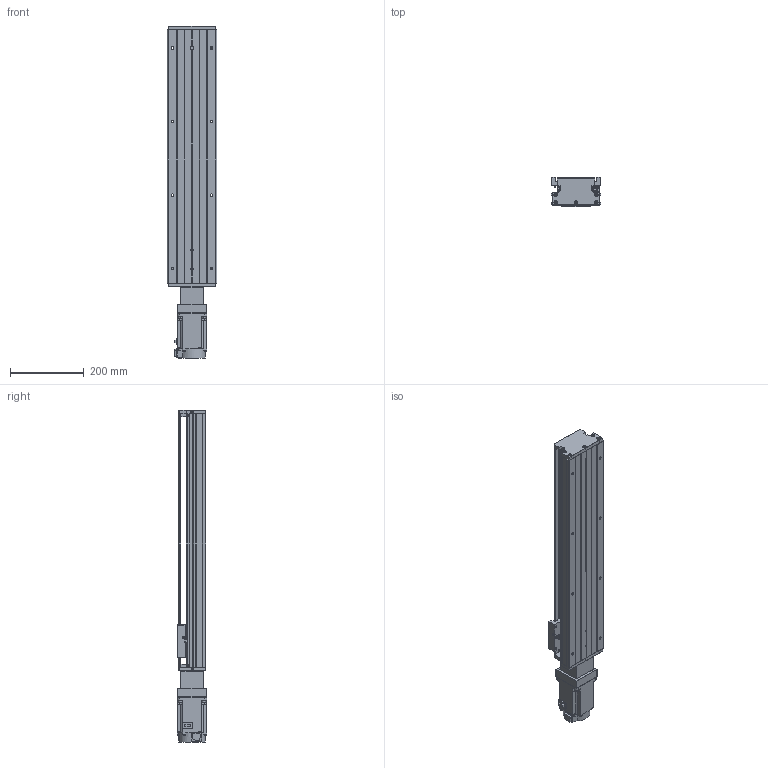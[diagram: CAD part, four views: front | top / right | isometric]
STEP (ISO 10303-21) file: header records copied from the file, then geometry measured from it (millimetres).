
FILE_DESCRIPTION (( 'STEP AP203' ), '1' );
FILE_NAME ('KTH130-550-BC-M75-C4.step', '2023-06-30T04:18:04', ( '微软用户' ), ( '微软中国' ), 'SwSTEP 2.0', 'SolidWorks 2020', '' );
FILE_SCHEMA (( 'CONFIG_CONTROL_DESIGN' ));
Length unit declared in the file: millimetre
Products named in the file (19): KTH130-002_KTH130-002; EE_SX911P_R; CTHA86-013; KTH130-004; CTHA60-016; CTHA86-027-1; KTH130-005; GBT 70.1-M3℅5; hg-kn73j_-s100; GB1155-6X6; GBT77-2000 M3×3; KTH130-550-BC-M75-C4; GBT70.1 M5℅16; す晦芛蹟隊 M3℅5; GBT 70.2-M3¡Á5_M3¡Á6; GBT 70.3-M3℅8; GTH14-001_550; CTHA60-017; CTHA86-006-1_M75
Assembly tree (52 placements, depth 2):
  KTH130-550-BC-M75-C4
    GTH14-001_550
    KTH130-002_KTH130-002
    KTH130-004
    KTH130-005
    GB1155-6X6  x2
    GBT70.1 M5℅16  x10
    GBT 70.2-M3¡Á5_M3¡Á6  x4
    CTHA60-017  x3
    EE_SX911P_R  x3
    CTHA60-016  x2
    GBT 70.1-M3℅5  x6
    GBT77-2000 M3×3  x6
    す晦芛蹟隊 M3℅5  x2
    GBT 70.3-M3℅8  x6
    CTHA86-006-1_M75
    CTHA86-013
    CTHA86-027-1
    hg-kn73j_-s100
Bounding box: 135 x 80.44 x 903.2 mm (x, y, z)
Volume: 4905659.5 mm3; surface area: 722703.2 mm2
Topology: 55 solids, 55 shells, 2250 faces, 5408 edges, 3367 vertices
Faces by surface type: plane 1240, cylinder 614, cone 280, torus 104, sphere 12
Entity records: 39846 total; most frequent: CARTESIAN_POINT 6581, DIRECTION 6551, ORIENTED_EDGE 6100, EDGE_CURVE 3050, AXIS2_PLACEMENT_3D 2273, LINE 2005, VECTOR 2005, VERTEX_POINT 1939
